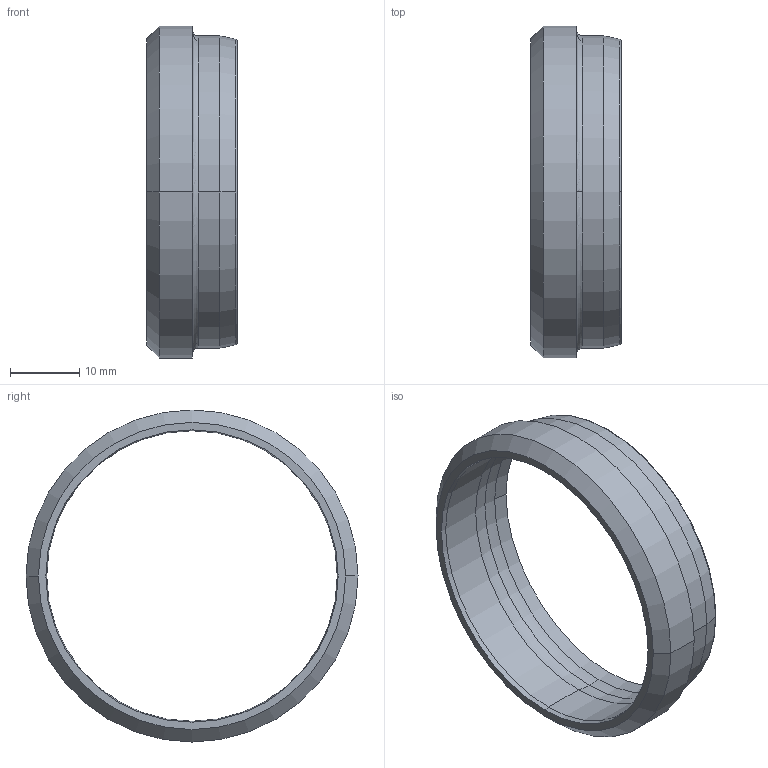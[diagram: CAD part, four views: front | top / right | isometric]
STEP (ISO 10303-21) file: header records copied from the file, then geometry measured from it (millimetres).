
FILE_DESCRIPTION((''),'2;1');
FILE_NAME('100113.stp','2006-03-06T15:06:34',('Dario Falcomer'),('CAST S.p.A.'),'AutoCAD STEP 2000i','AutoCAD 2000i',', , ');
FILE_SCHEMA(('CONFIG_CONTROL_DESIGN'));
Length unit declared in the file: millimetre
Products named in the file (2): 100113.0; 1001ESTERNO#0
Assembly tree (1 placements, depth 2):
  100113.0
    1001ESTERNO#0
Bounding box: 13.07 x 48 x 48 mm (x, y, z)
Volume: 3678.6 mm3; surface area: 4238.9 mm2
Topology: 1 solids, 1 shells, 30 faces, 71 edges, 45 vertices
Faces by surface type: cone 8, bspline 6, torus 6, cylinder 6, plane 4
Entity records: 1249 total; most frequent: CARTESIAN_POINT 412, DIRECTION 180, ORIENTED_EDGE 142, AXIS2_PLACEMENT_3D 83, EDGE_CURVE 71, CIRCLE 57, VERTEX_POINT 45, EDGE_LOOP 34
